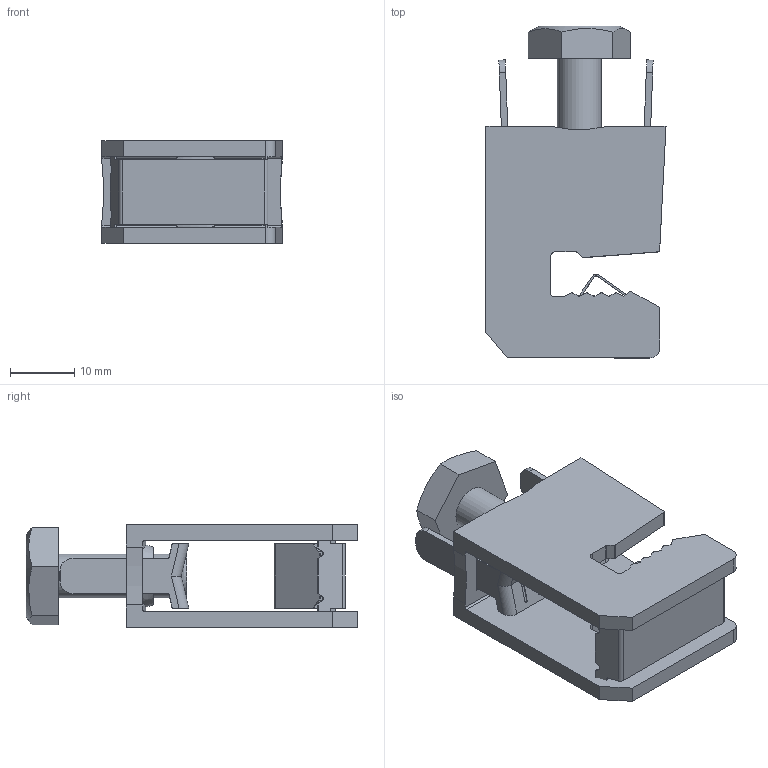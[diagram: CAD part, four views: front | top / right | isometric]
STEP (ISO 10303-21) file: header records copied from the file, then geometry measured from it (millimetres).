
FILE_DESCRIPTION (( 'STEP AP214' ), '1' );
FILE_NAME ('54285.STEP', '2021-03-01T01:41:50', ( '' ), ( '' ), 'SwSTEP 2.0', 'SolidWorks 2017', '' );
FILE_SCHEMA (( 'AUTOMOTIVE_DESIGN' ));
Length unit declared in the file: millimetre
Products named in the file (2): 54285
Bounding box: 28 x 51.61 x 16 mm (x, y, z)
Volume: 7060.8 mm3; surface area: 7958.7 mm2
Topology: 4 solids, 4 shells, 392 faces, 1115 edges, 737 vertices
Faces by surface type: plane 236, cylinder 98, bspline 56, cone 2
Full cylindrical faces by diameter (mm): 6.8 x2
Entity records: 19906 total; most frequent: CARTESIAN_POINT 5659, ORIENTED_EDGE 2216, DIRECTION 1807, EDGE_CURVE 1108, LINE 775, VECTOR 775, VERTEX_POINT 734, AXIS2_PLACEMENT_3D 516
